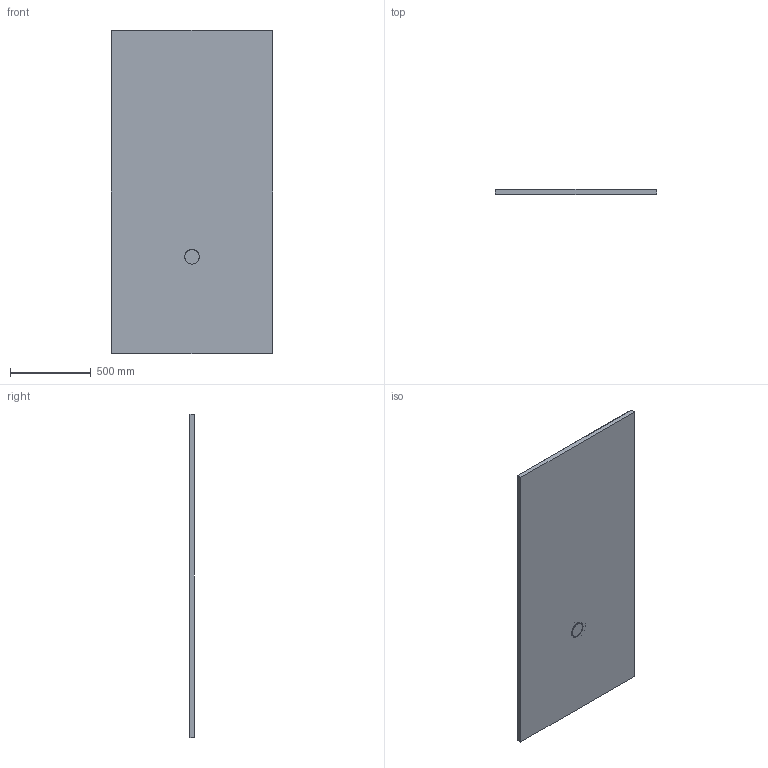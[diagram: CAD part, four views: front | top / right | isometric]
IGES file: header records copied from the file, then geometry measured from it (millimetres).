
Start section: SolidWorks IGES file using analytic representation for surfaces
Global section: file name: D:\Users\M.Szymanski\Desktop\Brodziki\Nias\B_M_NIAS_200x100x1,5.IGS; native system: SolidWorks 2011; preprocessor: SolidWorks 2011; author: M.Szymanski; date: 180222.142743; units: millimetre
Bounding box: 1000 x 30 x 2000 mm (x, y, z)
Surface area: 4200251.5 mm2 (no closed solid volume)
Topology: 0 solids, 0 shells, 45 faces, 663 edges, 662 vertices
Faces by surface type: bspline 25, revolution 20
